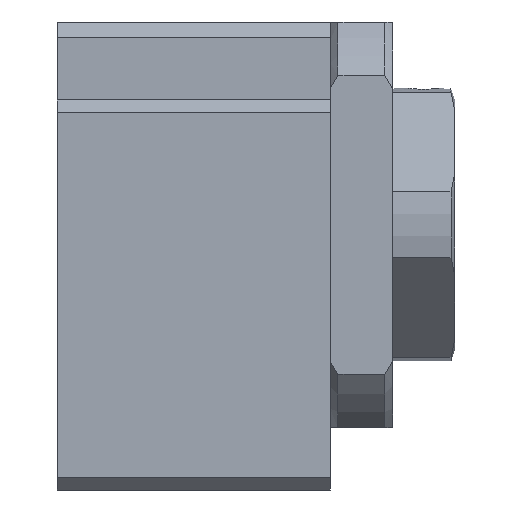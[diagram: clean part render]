
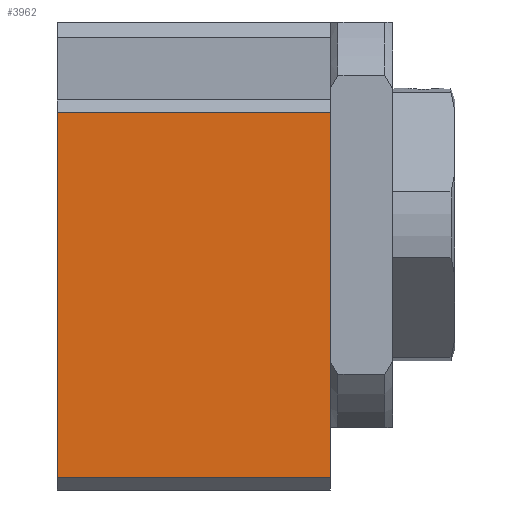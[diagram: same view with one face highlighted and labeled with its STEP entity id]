
A CAD part, left-side view. The second image highlights one B-rep face of the part: STEP entity #3962.
In plain terms, the highlighted free-form (B-spline) face has degree [1, 1] with [2, 2] control points.
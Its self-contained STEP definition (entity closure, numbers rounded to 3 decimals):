
#3634=CARTESIAN_POINT('',(-44.,-32.44,0.));
#3635=VERTEX_POINT('',#3634);
#3641=CARTESIAN_POINT('',(-44.,-32.44,-35.));
#3642=VERTEX_POINT('',#3641);
#3643=CARTESIAN_POINT('',(-44.,-32.44,0.));
#3644=CARTESIAN_POINT('',(-44.,-32.44,-35.));
#3645=B_SPLINE_CURVE_WITH_KNOTS('',1,(#3643,#3644),.POLYLINE_FORM.,.F.,.U.,(2,2),(0.,1.),.UNSPECIFIED.);
#3646=EDGE_CURVE('',#3635,#3642,#3645,.T.);
#3920=CARTESIAN_POINT('',(-44.,14.44,0.));
#3921=VERTEX_POINT('',#3920);
#3928=CARTESIAN_POINT('',(-44.,14.44,-35.));
#3929=VERTEX_POINT('',#3928);
#3935=CARTESIAN_POINT('',(-44.,14.44,-35.));
#3936=CARTESIAN_POINT('',(-44.,14.44,0.));
#3937=B_SPLINE_CURVE_WITH_KNOTS('',1,(#3935,#3936),.POLYLINE_FORM.,.F.,.U.,(2,2),(0.,1.),.UNSPECIFIED.);
#3938=EDGE_CURVE('',#3929,#3921,#3937,.T.);
#3943=CARTESIAN_POINT('',(-44.,-73.316,-122.756));
#3944=CARTESIAN_POINT('',(-44.,102.196,-122.756));
#3945=CARTESIAN_POINT('',(-44.,-73.316,52.756));
#3946=CARTESIAN_POINT('',(-44.,102.196,52.756));
#3947=B_SPLINE_SURFACE_WITH_KNOTS('',1,1,((#3943,#3944),(#3945,#3946)),.PLANE_SURF.,.F.,.F.,.U.,(2,2),(2,2),(0.,1.),(0.,1.),.UNSPECIFIED.);
#3948=CARTESIAN_POINT('',(-44.,-32.44,0.));
#3949=CARTESIAN_POINT('',(-44.,14.44,0.));
#3950=B_SPLINE_CURVE_WITH_KNOTS('',1,(#3948,#3949),.POLYLINE_FORM.,.F.,.U.,(2,2),(0.,1.),.UNSPECIFIED.);
#3951=EDGE_CURVE('',#3635,#3921,#3950,.T.);
#3952=ORIENTED_EDGE('',*,*,#3951,.T.);
#3953=ORIENTED_EDGE('',*,*,#3938,.F.);
#3954=CARTESIAN_POINT('',(-44.,14.44,-35.));
#3955=CARTESIAN_POINT('',(-44.,-32.44,-35.));
#3956=B_SPLINE_CURVE_WITH_KNOTS('',1,(#3954,#3955),.POLYLINE_FORM.,.F.,.U.,(2,2),(0.,1.),.UNSPECIFIED.);
#3957=EDGE_CURVE('',#3929,#3642,#3956,.T.);
#3958=ORIENTED_EDGE('',*,*,#3957,.T.);
#3959=ORIENTED_EDGE('',*,*,#3646,.F.);
#3960=EDGE_LOOP('',(#3952,#3953,#3958,#3959));
#3961=FACE_OUTER_BOUND('',#3960,.T.);
#3962=ADVANCED_FACE('',(#3961),#3947,.T.);
